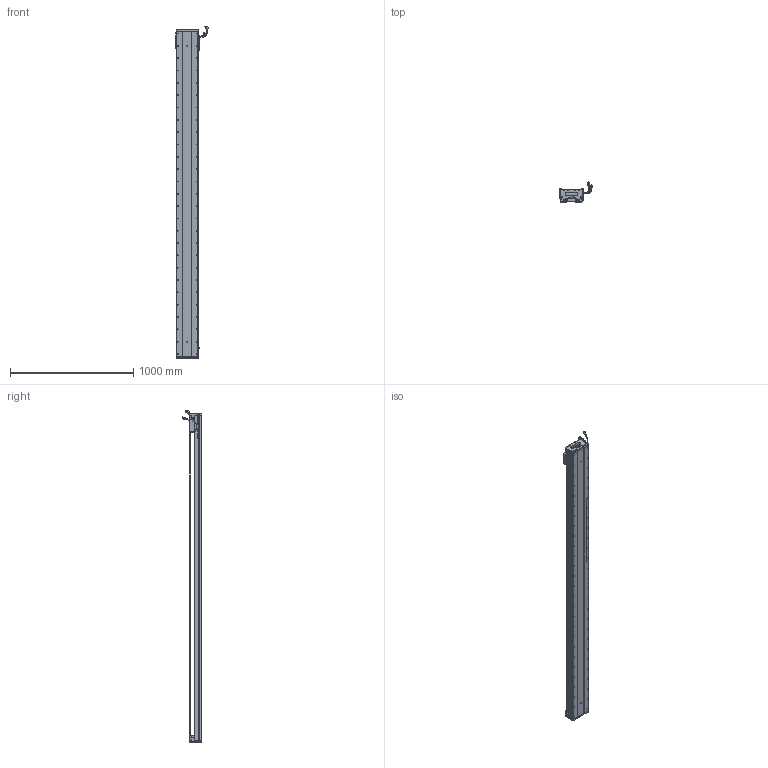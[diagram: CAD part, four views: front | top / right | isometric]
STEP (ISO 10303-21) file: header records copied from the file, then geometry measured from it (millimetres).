
FILE_DESCRIPTION (( 'STEP AP203' ), '1' );
FILE_NAME ('Z1-RY170D-1-L500-B-K.SLDASM_2450.step', '2021-05-17T08:55:42', ( '盈信电脑' ), ( '东莞市道滘镇水果街19号' ), 'SwSTEP 2.0', 'SolidWorks 2016', '' );
FILE_SCHEMA (( 'CONFIG_CONTROL_DESIGN' ));
Length unit declared in the file: millimetre
Products named in the file (36): HOLDER0; Z-RY170詩湍奻揤裔; SCREW-M1.6; SCREW-M1.6-3; 140蚥薯蝶輸; HARNESS-Part-2; SEAL; SEAL-Part-1; SCALE; 080黍杅芛假蚾釱21遴; HARNESS-Part-1; SCREW-M1.7; 140雄赽晤鎢ん堤盄; 榋妏寠巭燃_暯_M2_2; Z1-RY170-L500詩湍145mm遵_2450; SCREW-M1.6-2; 覜茼ん672; LABEL-Part-1; Z1-RY170-L500耀郪菁釱_2450; SHIELDPLATE; SCREW-M1.6-1; COVER-Part-1; COVER; SCALE-Part-2; PBU_SHEET; Z-RY170詩湍狟揤裔; SCALE-Part-1; Z1-RY170D-1-L500-B-K.SLDASM_2450; RY170直线电机感应器672光电感应片; Z1-RY170臏賑輸(21遴); HARNESS; Z-170詩湍傷裔啣; 170-Z-臏賑輸盄裔(21遴); SCREW-M1.7-1; LABEL; PSLH080_PSLF2
Assembly tree (41 placements, depth 4):
  Z1-RY170D-1-L500-B-K.SLDASM_2450
    Z1-RY170-L500耀郪菁釱_2450
    RY170直线电机感应器672光电感应片
    Z1-RY170臏賑輸(21遴)
    覜茼ん672  x3
    PSLH080_PSLF2
      SCALE
        SCALE-Part-1
        SCALE-Part-2
      HARNESS
        HARNESS-Part-1
        HARNESS-Part-2
      LABEL
        LABEL-Part-1
      COVER
        COVER-Part-1
      SEAL
        SEAL-Part-1
      榋妏寠巭燃_暯_M2_2
      SHIELDPLATE
      SCREW-M1.7
      SCREW-M1.7-1
      PBU_SHEET
      SCREW-M1.6
      SCREW-M1.6-1
      SCREW-M1.6-2
      SCREW-M1.6-3
      HOLDER0
    080黍杅芛假蚾釱21遴
    Z1-RY170-L500詩湍145mm遵_2450
    Z-170詩湍傷裔啣  x2
    Z-RY170詩湍奻揤裔  x2
    Z-RY170詩湍狟揤裔  x2
    140蚥薯蝶輸  x2
    170-Z-臏賑輸盄裔(21遴)
    140雄赽晤鎢ん堤盄
Bounding box: 275.29 x 158.11 x 2693.72 mm (x, y, z)
Volume: 12848043.6 mm3; surface area: 3216377.3 mm2
Topology: 36 solids, 36 shells, 4040 faces, 11259 edges, 7039 vertices
Faces by surface type: cylinder 2050, plane 1308, cone 560, torus 69, bspline 53
Entity records: 128147 total; most frequent: CARTESIAN_POINT 36420, ORIENTED_EDGE 18970, DIRECTION 17485, EDGE_CURVE 9485, AXIS2_PLACEMENT_3D 6426, VERTEX_POINT 6157, VECTOR 4633, LINE 4633
